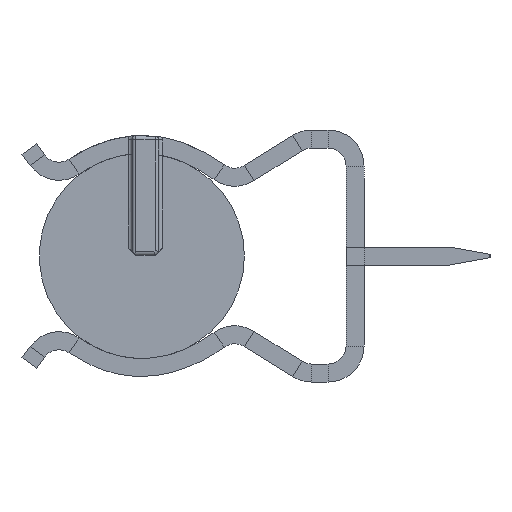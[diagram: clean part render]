
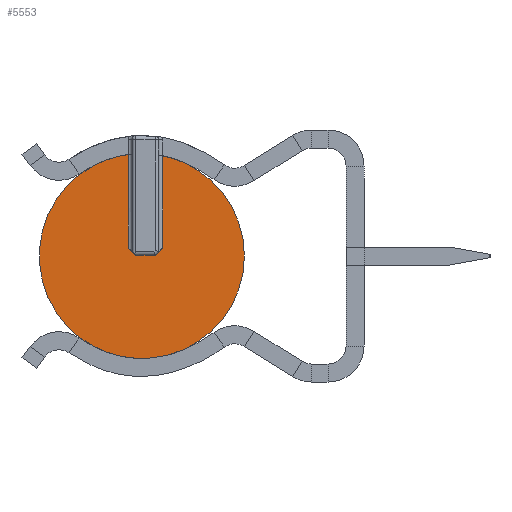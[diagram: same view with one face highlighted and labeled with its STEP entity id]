
A CAD part, left-side view. The second image highlights one B-rep face of the part: STEP entity #5553.
In plain terms, the highlighted planar face has unit normal (-1, 0, 0).
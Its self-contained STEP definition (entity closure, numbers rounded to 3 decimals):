
#171=PLANE('',#5903);
#541=FACE_OUTER_BOUND('',#889,.T.);
#889=EDGE_LOOP('',(#4431,#4432,#4433,#4434,#4435,#4436,#4437,#4438,#4439,
#4440,#4441));
#1275=LINE('',#10354,#1736);
#1280=LINE('',#10398,#1741);
#1297=LINE('',#10509,#1758);
#1299=LINE('',#10513,#1760);
#1301=LINE('',#10516,#1762);
#1736=VECTOR('',#6612,10.);
#1741=VECTOR('',#6635,10.);
#1758=VECTOR('',#6704,10.);
#1760=VECTOR('',#6708,10.);
#1762=VECTOR('',#6712,10.);
#2041=CIRCLE('',#5904,2.848);
#2042=CIRCLE('',#5905,2.848);
#2275=B_SPLINE_CURVE_WITH_KNOTS('',2,(#10520,#10521,#10522),
 .UNSPECIFIED.,.F.,.F.,(3,3),(1.621,1.74),
 .UNSPECIFIED.);
#2278=B_SPLINE_CURVE_WITH_KNOTS('',2,(#10537,#10538,#10539),
 .UNSPECIFIED.,.F.,.F.,(3,3),(1.233,1.432),
 .UNSPECIFIED.);
#2279=B_SPLINE_CURVE_WITH_KNOTS('',2,(#10543,#10544,#10545),
 .UNSPECIFIED.,.F.,.F.,(3,3),(1.522,1.767),
 .UNSPECIFIED.);
#2280=B_SPLINE_CURVE_WITH_KNOTS('',2,(#10547,#10548,#10549),
 .UNSPECIFIED.,.F.,.F.,(3,3),(1.26,1.522),
 .UNSPECIFIED.);
#2585=VERTEX_POINT('',#10346);
#2587=VERTEX_POINT('',#10352);
#2592=VERTEX_POINT('',#10378);
#2596=VERTEX_POINT('',#10395);
#2597=VERTEX_POINT('',#10397);
#2617=VERTEX_POINT('',#10508);
#2618=VERTEX_POINT('',#10512);
#2621=VERTEX_POINT('',#10531);
#2622=VERTEX_POINT('',#10540);
#2623=VERTEX_POINT('',#10542);
#2624=VERTEX_POINT('',#10546);
#3183=EDGE_CURVE('',#2587,#2585,#1275,.T.);
#3196=EDGE_CURVE('',#2596,#2597,#1280,.T.);
#3231=EDGE_CURVE('',#2617,#2597,#1297,.T.);
#3233=EDGE_CURVE('',#2618,#2617,#1299,.T.);
#3235=EDGE_CURVE('',#2587,#2618,#1301,.T.);
#3237=EDGE_CURVE('',#2585,#2592,#2275,.T.);
#3242=EDGE_CURVE('',#2621,#2596,#2278,.T.);
#3243=EDGE_CURVE('',#2621,#2622,#2041,.T.);
#3244=EDGE_CURVE('',#2623,#2622,#2279,.T.);
#3245=EDGE_CURVE('',#2624,#2623,#2280,.T.);
#3246=EDGE_CURVE('',#2624,#2592,#2042,.T.);
#4431=ORIENTED_EDGE('',*,*,#3235,.T.);
#4432=ORIENTED_EDGE('',*,*,#3233,.T.);
#4433=ORIENTED_EDGE('',*,*,#3231,.T.);
#4434=ORIENTED_EDGE('',*,*,#3196,.F.);
#4435=ORIENTED_EDGE('',*,*,#3242,.F.);
#4436=ORIENTED_EDGE('',*,*,#3243,.T.);
#4437=ORIENTED_EDGE('',*,*,#3244,.F.);
#4438=ORIENTED_EDGE('',*,*,#3245,.F.);
#4439=ORIENTED_EDGE('',*,*,#3246,.T.);
#4440=ORIENTED_EDGE('',*,*,#3237,.F.);
#4441=ORIENTED_EDGE('',*,*,#3183,.F.);
#5553=ADVANCED_FACE('',(#541),#171,.F.);
#5903=AXIS2_PLACEMENT_3D('',#10536,#6723,#6724);
#5904=AXIS2_PLACEMENT_3D('',#10541,#6725,#6726);
#5905=AXIS2_PLACEMENT_3D('',#10550,#6727,#6728);
#6612=DIRECTION('',(0.,0.,1.));
#6635=DIRECTION('',(0.,0.,-1.));
#6704=DIRECTION('',(0.,0.707,0.707));
#6708=DIRECTION('',(0.,1.,0.));
#6712=DIRECTION('',(0.,0.707,-0.707));
#6723=DIRECTION('center_axis',(1.,0.,0.));
#6724=DIRECTION('ref_axis',(0.,0.,-1.));
#6725=DIRECTION('center_axis',(-1.,0.,0.));
#6726=DIRECTION('ref_axis',(0.,-1.,0.));
#6727=DIRECTION('center_axis',(-1.,0.,0.));
#6728=DIRECTION('ref_axis',(0.,-1.,0.));
#10346=CARTESIAN_POINT('',(0.,-0.003,2.795));
#10352=CARTESIAN_POINT('',(0.,-0.003,0.226));
#10354=CARTESIAN_POINT('',(0.,-0.003,1.665));
#10378=CARTESIAN_POINT('',(0.,-0.608,2.602));
#10395=CARTESIAN_POINT('',(0.,0.943,2.832));
#10397=CARTESIAN_POINT('',(0.,0.943,0.226));
#10398=CARTESIAN_POINT('',(0.,0.943,0.067));
#10508=CARTESIAN_POINT('',(0.,0.743,0.026));
#10509=CARTESIAN_POINT('',(0.,0.696,-0.021));
#10512=CARTESIAN_POINT('',(0.,0.197,0.026));
#10513=CARTESIAN_POINT('',(0.,0.384,0.026));
#10516=CARTESIAN_POINT('',(0.,0.244,-0.022));
#10520=CARTESIAN_POINT('Ctrl Pts',(0.,-0.003,2.795));
#10521=CARTESIAN_POINT('Ctrl Pts',(0.,-0.304,2.731));
#10522=CARTESIAN_POINT('Ctrl Pts',(0.,-0.608,2.602));
#10531=CARTESIAN_POINT('',(0.,1.926,2.514));
#10536=CARTESIAN_POINT('Origin',(0.,0.571,0.009));
#10537=CARTESIAN_POINT('Ctrl Pts',(0.,1.926,2.514));
#10538=CARTESIAN_POINT('Ctrl Pts',(0.,1.438,2.765));
#10539=CARTESIAN_POINT('Ctrl Pts',(0.,0.943,2.832));
#10540=CARTESIAN_POINT('',(0.,1.926,-2.496));
#10541=CARTESIAN_POINT('Origin',(0.,0.571,0.009));
#10542=CARTESIAN_POINT('',(0.,0.716,-2.835));
#10543=CARTESIAN_POINT('Ctrl Pts',(0.,0.716,-2.835));
#10544=CARTESIAN_POINT('Ctrl Pts',(0.,1.327,-2.804));
#10545=CARTESIAN_POINT('Ctrl Pts',(0.,1.926,-2.496));
#10546=CARTESIAN_POINT('',(0.,-0.608,-2.583));
#10547=CARTESIAN_POINT('Ctrl Pts',(0.,-0.608,-2.583));
#10548=CARTESIAN_POINT('Ctrl Pts',(0.,0.061,-2.868));
#10549=CARTESIAN_POINT('Ctrl Pts',(0.,0.716,-2.835));
#10550=CARTESIAN_POINT('Origin',(0.,0.571,0.009));
